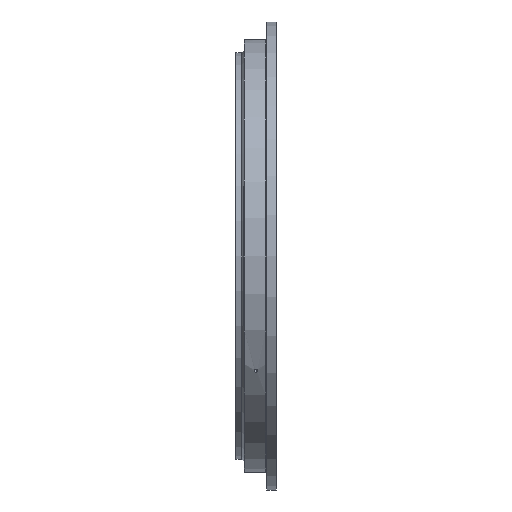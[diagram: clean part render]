
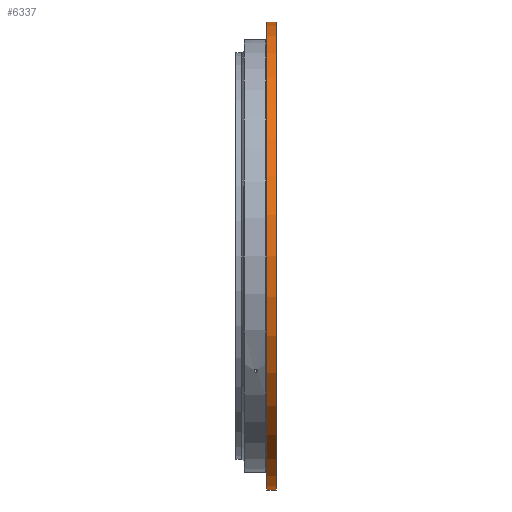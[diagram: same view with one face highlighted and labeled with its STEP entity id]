
A CAD part, left-side view. The second image highlights one B-rep face of the part: STEP entity #6337.
In plain terms, the highlighted cylindrical face has radius 550 mm (diameter 1100 mm), a partial arc.
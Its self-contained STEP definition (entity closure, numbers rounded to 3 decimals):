
#34 = CARTESIAN_POINT ( 'NONE',  ( 0., -28.866, -550. ) ) ;
#47 = ORIENTED_EDGE ( 'NONE', *, *, #1989, .T. ) ;
#1465 = EDGE_CURVE ( 'NONE', #22979, #5634, #3684, .T. ) ;
#1571 = ORIENTED_EDGE ( 'NONE', *, *, #8896, .F. ) ;
#1905 = ORIENTED_EDGE ( 'NONE', *, *, #11232, .T. ) ;
#1989 = EDGE_CURVE ( 'NONE', #13657, #5634, #5453, .T. ) ;
#2803 = DIRECTION ( 'NONE',  ( 0., -1., 0. ) ) ;
#3684 = CIRCLE ( 'NONE', #18240, 550. ) ;
#3972 = CARTESIAN_POINT ( 'NONE',  ( 0., 0., 550. ) ) ;
#5453 = LINE ( 'NONE', #13486, #14831 ) ;
#5634 = VERTEX_POINT ( 'NONE', #34 ) ;
#6158 = VERTEX_POINT ( 'NONE', #14192 ) ;
#6337 = ADVANCED_FACE ( 'NONE', ( #10460 ), #24789, .T. ) ;
#7505 = CARTESIAN_POINT ( 'NONE',  ( 0., -28.866, 550. ) ) ;
#7622 = DIRECTION ( 'NONE',  ( 0., -1., 0. ) ) ;
#8291 = VECTOR ( 'NONE', #20861, 1000. ) ;
#8896 = EDGE_CURVE ( 'NONE', #6158, #22979, #20337, .T. ) ;
#10460 = FACE_OUTER_BOUND ( 'NONE', #17811, .T. ) ;
#10982 = DIRECTION ( 'NONE',  ( 0., 0., -1. ) ) ;
#11232 = EDGE_CURVE ( 'NONE', #6158, #13657, #16496, .T. ) ;
#13486 = CARTESIAN_POINT ( 'NONE',  ( 0., 0., -550. ) ) ;
#13657 = VERTEX_POINT ( 'NONE', #23332 ) ;
#14192 = CARTESIAN_POINT ( 'NONE',  ( 0., -6.866, 550. ) ) ;
#14593 = CARTESIAN_POINT ( 'NONE',  ( 0., 0., 0. ) ) ;
#14794 = AXIS2_PLACEMENT_3D ( 'NONE', #17505, #17107, #25683 ) ;
#14831 = VECTOR ( 'NONE', #7622, 1000. ) ;
#15115 = AXIS2_PLACEMENT_3D ( 'NONE', #14593, #2803, #10982 ) ;
#16496 = CIRCLE ( 'NONE', #14794, 550. ) ;
#17107 = DIRECTION ( 'NONE',  ( 0., -1., 0. ) ) ;
#17505 = CARTESIAN_POINT ( 'NONE',  ( 0., -6.866, 0. ) ) ;
#17811 = EDGE_LOOP ( 'NONE', ( #1571, #1905, #47, #25703 ) ) ;
#18240 = AXIS2_PLACEMENT_3D ( 'NONE', #19035, #23448, #21313 ) ;
#19035 = CARTESIAN_POINT ( 'NONE',  ( 0., -28.866, 0. ) ) ;
#20337 = LINE ( 'NONE', #3972, #8291 ) ;
#20861 = DIRECTION ( 'NONE',  ( 0., -1., 0. ) ) ;
#21313 = DIRECTION ( 'NONE',  ( 0., 0., -1. ) ) ;
#22979 = VERTEX_POINT ( 'NONE', #7505 ) ;
#23332 = CARTESIAN_POINT ( 'NONE',  ( 0., -6.866, -550. ) ) ;
#23448 = DIRECTION ( 'NONE',  ( 0., -1., 0. ) ) ;
#24789 = CYLINDRICAL_SURFACE ( 'NONE', #15115, 550. ) ;
#25683 = DIRECTION ( 'NONE',  ( 0., 0., -1. ) ) ;
#25703 = ORIENTED_EDGE ( 'NONE', *, *, #1465, .F. ) ;
